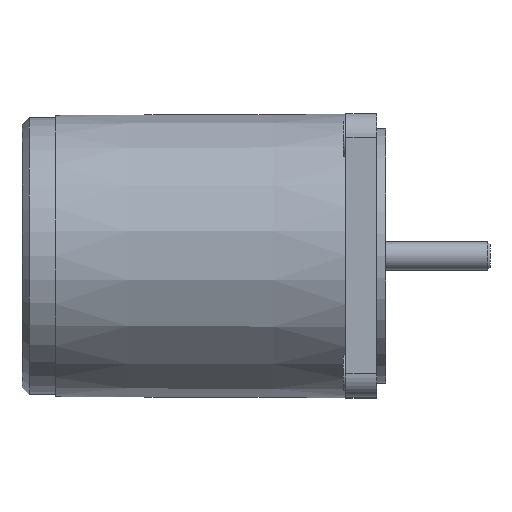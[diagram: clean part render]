
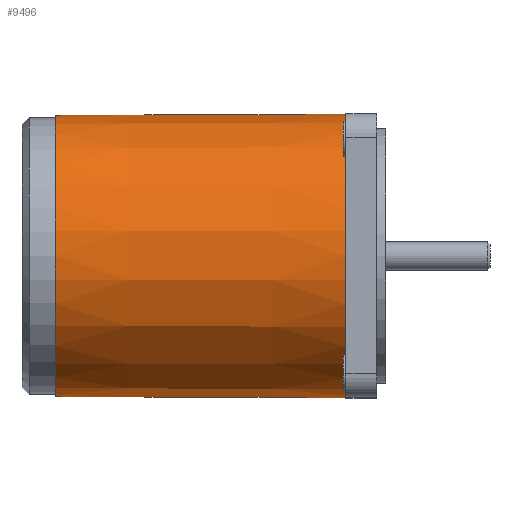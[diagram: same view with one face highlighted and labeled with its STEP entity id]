
A CAD part, top view. The second image highlights one B-rep face of the part: STEP entity #9496.
In plain terms, the highlighted conical face has half-angle 0.233 degrees and reference radius 29.875 mm.
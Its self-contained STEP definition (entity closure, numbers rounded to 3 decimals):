
#65=(
BOUNDED_CURVE()
B_SPLINE_CURVE(2,(#14503,#14504,#14505),.UNSPECIFIED.,.F.,.F.)
B_SPLINE_CURVE_WITH_KNOTS((3,3),(0.,4.2),.UNSPECIFIED.)
CURVE()
GEOMETRIC_REPRESENTATION_ITEM()
RATIONAL_B_SPLINE_CURVE((1.,1.,1.))
REPRESENTATION_ITEM('')
);
#66=(
BOUNDED_CURVE()
B_SPLINE_CURVE(2,(#14512,#14513,#14514),.UNSPECIFIED.,.F.,.F.)
B_SPLINE_CURVE_WITH_KNOTS((3,3),(0.,4.2),.UNSPECIFIED.)
CURVE()
GEOMETRIC_REPRESENTATION_ITEM()
RATIONAL_B_SPLINE_CURVE((1.,1.,1.))
REPRESENTATION_ITEM('')
);
#1747=CONICAL_SURFACE('',#10135,29.875,0.233);
#2002=FACE_BOUND('',#2743,.T.);
#2146=FACE_OUTER_BOUND('',#2742,.T.);
#2742=EDGE_LOOP('',(#6327));
#2743=EDGE_LOOP('',(#6328,#6329,#6330,#6331,#6332,#6333,#6334,#6335,#6336));
#3245=CIRCLE('',#9976,30.);
#3248=CIRCLE('',#9980,30.);
#3253=CIRCLE('',#9986,30.);
#3258=CIRCLE('',#9992,30.);
#3316=CIRCLE('',#10130,29.75);
#3319=CIRCLE('',#10136,29.829);
#3320=CIRCLE('',#10137,29.829);
#3321=CIRCLE('',#10138,29.829);
#3704=VERTEX_POINT('',#13815);
#3705=VERTEX_POINT('',#13816);
#3709=VERTEX_POINT('',#13826);
#3717=VERTEX_POINT('',#13844);
#3725=VERTEX_POINT('',#13881);
#3859=VERTEX_POINT('',#14493);
#3862=VERTEX_POINT('',#14502);
#3863=VERTEX_POINT('',#14506);
#3864=VERTEX_POINT('',#14508);
#3865=VERTEX_POINT('',#14510);
#4576=EDGE_CURVE('',#3704,#3705,#3245,.T.);
#4581=EDGE_CURVE('',#3705,#3709,#3248,.T.);
#4590=EDGE_CURVE('',#3709,#3717,#3253,.T.);
#4599=EDGE_CURVE('',#3725,#3704,#3258,.T.);
#4786=EDGE_CURVE('',#3859,#3859,#3316,.T.);
#4789=EDGE_CURVE('',#3725,#3862,#65,.T.);
#4790=EDGE_CURVE('',#3862,#3863,#3319,.T.);
#4791=EDGE_CURVE('',#3863,#3864,#3320,.T.);
#4792=EDGE_CURVE('',#3864,#3865,#3321,.T.);
#4793=EDGE_CURVE('',#3865,#3717,#66,.T.);
#6327=ORIENTED_EDGE('',*,*,#4786,.T.);
#6328=ORIENTED_EDGE('',*,*,#4789,.T.);
#6329=ORIENTED_EDGE('',*,*,#4790,.T.);
#6330=ORIENTED_EDGE('',*,*,#4791,.T.);
#6331=ORIENTED_EDGE('',*,*,#4792,.T.);
#6332=ORIENTED_EDGE('',*,*,#4793,.T.);
#6333=ORIENTED_EDGE('',*,*,#4590,.F.);
#6334=ORIENTED_EDGE('',*,*,#4581,.F.);
#6335=ORIENTED_EDGE('',*,*,#4576,.F.);
#6336=ORIENTED_EDGE('',*,*,#4599,.F.);
#9496=ADVANCED_FACE('',(#2146,#2002),#1747,.T.);
#9976=AXIS2_PLACEMENT_3D('',#13817,#11018,#11019);
#9980=AXIS2_PLACEMENT_3D('',#13827,#11028,#11029);
#9986=AXIS2_PLACEMENT_3D('',#13845,#11044,#11045);
#9992=AXIS2_PLACEMENT_3D('',#13883,#11056,#11057);
#10130=AXIS2_PLACEMENT_3D('',#14494,#11433,#11434);
#10135=AXIS2_PLACEMENT_3D('',#14501,#11443,#11444);
#10136=AXIS2_PLACEMENT_3D('',#14507,#11445,#11446);
#10137=AXIS2_PLACEMENT_3D('',#14509,#11447,#11448);
#10138=AXIS2_PLACEMENT_3D('',#14511,#11449,#11450);
#11018=DIRECTION('center_axis',(1.,0.,0.));
#11019=DIRECTION('ref_axis',(0.,1.,0.));
#11028=DIRECTION('center_axis',(1.,0.,0.));
#11029=DIRECTION('ref_axis',(0.,1.,0.));
#11044=DIRECTION('center_axis',(1.,0.,0.));
#11045=DIRECTION('ref_axis',(0.,1.,0.));
#11056=DIRECTION('center_axis',(1.,0.,0.));
#11057=DIRECTION('ref_axis',(0.,1.,0.));
#11433=DIRECTION('center_axis',(1.,0.,0.));
#11434=DIRECTION('ref_axis',(0.,1.,0.));
#11443=DIRECTION('center_axis',(1.,0.,0.));
#11444=DIRECTION('ref_axis',(0.,1.,0.));
#11445=DIRECTION('center_axis',(-1.,0.,0.));
#11446=DIRECTION('ref_axis',(0.,1.,0.));
#11447=DIRECTION('center_axis',(-1.,0.,0.));
#11448=DIRECTION('ref_axis',(0.,1.,0.));
#11449=DIRECTION('center_axis',(-1.,0.,0.));
#11450=DIRECTION('ref_axis',(0.,1.,0.));
#13815=CARTESIAN_POINT('',(68.5,30.,0.));
#13816=CARTESIAN_POINT('',(68.5,0.,30.));
#13817=CARTESIAN_POINT('Origin',(68.5,0.,0.));
#13826=CARTESIAN_POINT('',(68.5,-30.,0.));
#13827=CARTESIAN_POINT('Origin',(68.5,0.,0.));
#13844=CARTESIAN_POINT('',(68.5,-21.782,-20.628));
#13845=CARTESIAN_POINT('Origin',(68.5,0.,0.));
#13881=CARTESIAN_POINT('',(68.5,21.782,-20.628));
#13883=CARTESIAN_POINT('Origin',(68.5,0.,0.));
#14493=CARTESIAN_POINT('',(7.,29.75,0.));
#14494=CARTESIAN_POINT('Origin',(7.,0.,0.));
#14501=CARTESIAN_POINT('Origin',(37.75,0.,0.));
#14502=CARTESIAN_POINT('',(26.5,21.769,-20.393));
#14503=CARTESIAN_POINT('Ctrl Pts',(68.5,21.782,-20.628));
#14504=CARTESIAN_POINT('Ctrl Pts',(47.386,21.776,-20.51));
#14505=CARTESIAN_POINT('Ctrl Pts',(26.5,21.769,-20.393));
#14506=CARTESIAN_POINT('',(26.5,21.289,-20.894));
#14507=CARTESIAN_POINT('Origin',(26.5,0.,0.));
#14508=CARTESIAN_POINT('',(26.5,-21.289,-20.894));
#14509=CARTESIAN_POINT('Origin',(26.5,0.,0.));
#14510=CARTESIAN_POINT('',(26.5,-21.769,-20.393));
#14511=CARTESIAN_POINT('Origin',(26.5,0.,0.));
#14512=CARTESIAN_POINT('Ctrl Pts',(26.5,-21.769,-20.393));
#14513=CARTESIAN_POINT('Ctrl Pts',(47.386,-21.776,-20.51));
#14514=CARTESIAN_POINT('Ctrl Pts',(68.5,-21.782,-20.628));
